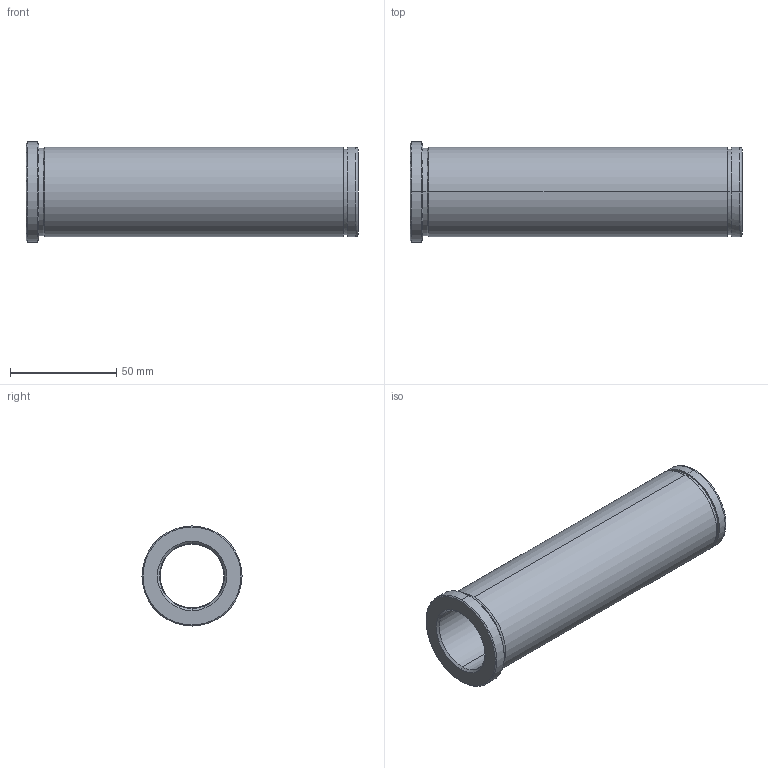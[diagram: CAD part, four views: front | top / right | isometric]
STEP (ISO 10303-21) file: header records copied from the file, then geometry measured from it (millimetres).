
FILE_DESCRIPTION(('CATIA V5 STEP Exchange'),'2;1');
FILE_NAME('C:\Users\Utente\Desktop\IO LAVORO\3D X SITO CF\X SITO\PLASTICA\553\553-30X156.stp','2021-05-26T18:29:00+00:00',('none'),('none'),'CATIA Version 5 Release 20 GA (IN-10)','CATIA V5 STEP AP203','none');
FILE_SCHEMA(('CONFIG_CONTROL_DESIGN'));
Length unit declared in the file: millimetre
Products named in the file (1): 553-30X156
Bounding box: 156 x 47 x 47 mm (x, y, z)
Volume: 105876.1 mm3; surface area: 37543.1 mm2
Topology: 1 solids, 1 shells, 32 faces, 102 edges, 76 vertices
Faces by surface type: cylinder 14, cone 8, plane 6, torus 4
Entity records: 1340 total; most frequent: CARTESIAN_POINT 399, ORIENTED_EDGE 204, DIRECTION 150, EDGE_CURVE 102, AXIS2_PLACEMENT_3D 97, VERTEX_POINT 76, CIRCLE 64, EDGE_LOOP 38
